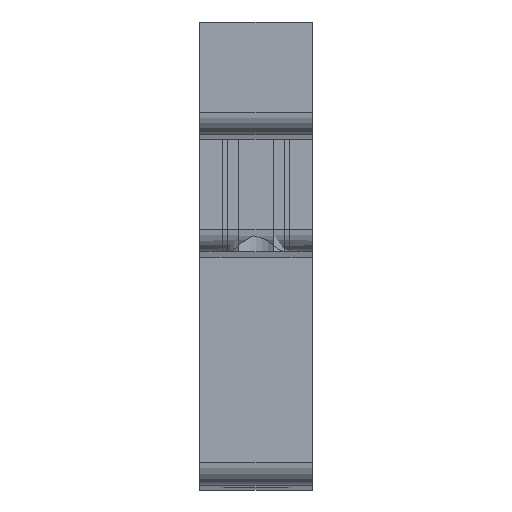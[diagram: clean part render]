
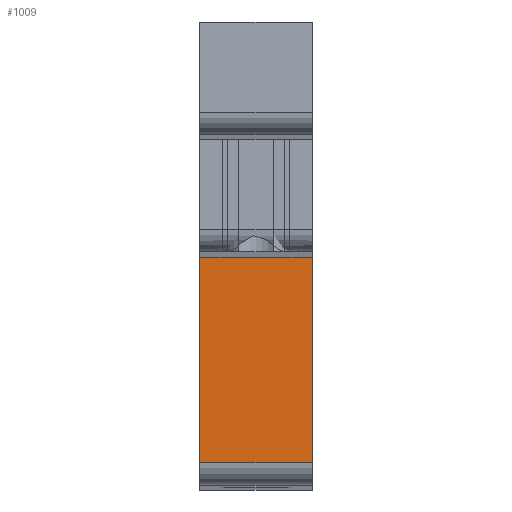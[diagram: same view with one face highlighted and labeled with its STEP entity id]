
A CAD part, top view. The second image highlights one B-rep face of the part: STEP entity #1009.
In plain terms, the highlighted planar face has unit normal (0, 0, 1).
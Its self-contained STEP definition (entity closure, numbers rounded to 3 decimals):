
#79=DIRECTION('',(0.,1.,0.));
#80=VECTOR('',#79,14.);
#81=CARTESIAN_POINT('',(-43.925,-43.,62.751));
#82=LINE('',#81,#80);
#277=DIRECTION('',(0.,1.,0.));
#278=VECTOR('',#277,14.);
#279=CARTESIAN_POINT('',(-48.925,-43.,62.751));
#280=LINE('',#279,#278);
#363=DIRECTION('',(-1.,0.,0.));
#364=VECTOR('',#363,5.);
#365=CARTESIAN_POINT('',(-43.925,-29.,62.751));
#366=LINE('',#365,#364);
#367=DIRECTION('',(1.,0.,0.));
#368=VECTOR('',#367,5.);
#369=CARTESIAN_POINT('',(-48.925,-43.,62.751));
#370=LINE('',#369,#368);
#577=CARTESIAN_POINT('',(-43.925,-29.,62.751));
#579=VERTEX_POINT('',#577);
#585=CARTESIAN_POINT('',(-48.925,-29.,62.751));
#587=VERTEX_POINT('',#585);
#601=CARTESIAN_POINT('',(-43.925,-43.,62.751));
#603=VERTEX_POINT('',#601);
#607=CARTESIAN_POINT('',(-48.925,-43.,62.751));
#608=VERTEX_POINT('',#607);
#997=CARTESIAN_POINT('',(-43.925,-44.,62.751));
#998=DIRECTION('',(0.,0.,1.));
#999=DIRECTION('',(0.,1.,0.));
#1000=AXIS2_PLACEMENT_3D('',#997,#998,#999);
#1001=PLANE('',#1000);
#1003=ORIENTED_EDGE('',*,*,#1002,.F.);
#1004=ORIENTED_EDGE('',*,*,#922,.T.);
#1005=ORIENTED_EDGE('',*,*,#990,.F.);
#1006=ORIENTED_EDGE('',*,*,#730,.F.);
#1007=EDGE_LOOP('',(#1003,#1004,#1005,#1006));
#1008=FACE_OUTER_BOUND('',#1007,.F.);
#1009=ADVANCED_FACE('',(#1008),#1001,.T.);
#730=EDGE_CURVE('',#603,#579,#82,.T.);
#922=EDGE_CURVE('',#608,#587,#280,.T.);
#990=EDGE_CURVE('',#579,#587,#366,.T.);
#1002=EDGE_CURVE('',#608,#603,#370,.T.);
